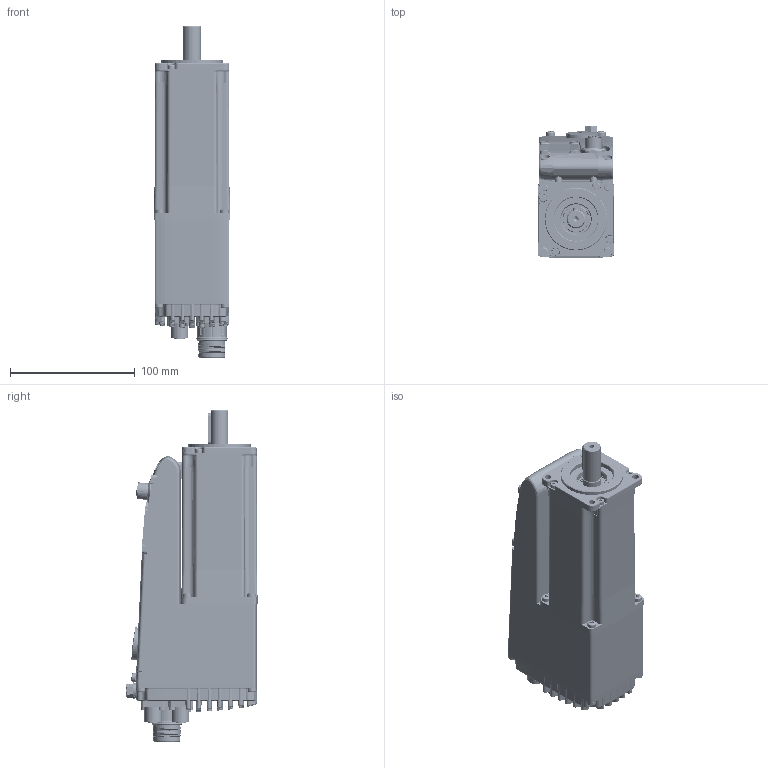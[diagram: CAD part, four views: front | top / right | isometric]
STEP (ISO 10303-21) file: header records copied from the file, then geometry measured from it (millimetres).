
FILE_DESCRIPTION(/* description */ ('Unknown'),/* implementation_level */ '2;1');
FILE_NAME(/* name */ 'DUET60 1,3 A5 0 E 0 (Q0C001)',/* time_stamp */ '2020-11-04T15:22:00+01:00',/* author */ ('Unknown'),/* organization */ ('Unknown'),/* preprocessor_version */ 'ST-DEVELOPER v16.7',/* originating_system */ 'DEX',/* authorisation */ $);
FILE_SCHEMA (('AUTOMOTIVE_DESIGN {1 0 10303 214 3 1 1}'));
Products named in the file (49): DUET60 1,3 A5 0 E 0 (Q0C001); 003251021030; 005123000690; 005123000690_0; 005123000690_1; 005123000690_2; 005123000690_3; 005123000690_4; 005123000690_5; 005123000690_6; 005755000060; 005751000100; 005123000100; 005123000100_0; 005123000100_1; 005123000100_2; 005123000100_3; 005123000100_4; 005123000100_5; 005911000198; 005113000400; 003108002506; 005911000182; 005008000510-oa0; 005008000740-oa1; 005008000744-oa2; 005007000200; MD031601.1.0; 005911000495; 003003199480; 003120003043; 052400000001; LC431503.0.0; J_4302729; J_7601000000; V_VTCTX3X10(8.8); J_7084943121; MD031604.0.0; V_RP6; MD031607.0.0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
Assembly tree (80 placements, depth 4):
  DUET60 1,3 A5 0 E 0 (Q0C001)
    003251021030
    005123000690
    005123000690_0
    005123000690_1
    005123000690_2
    005123000690_3
    005123000690_4
    005123000690_5
    005123000690_6
    005755000060
    005751000100
    005123000100
    005123000100_0
    005123000100_1
    005123000100_2
    005123000100_3
    005123000100_4
    005123000100_5
    005911000198  x4
    005113000400
    003108002506
    005911000182
    005008000510-oa0
    005008000740-oa1
    005008000744-oa2
    005007000200
    MD031601.1.0
    005911000495  x4
    003003199480
    003120003043
    052400000001
      LC431503.0.0
        J_4302729  x2
        J_7601000000
        V_VTCTX3X10(8.8)  x11
        J_7084943121
        MD031604.0.0
        V_RP6
      MD031607.0.0
      MD031608.0.0
      V_VTCTX40X12A  x12
      V_VTCTXK30X8  x5
      MD031609.0.0
      V_V027400610
      169692
      MD081003.2.0
      MD141520.0.0
      CONEC-43-01063
Bounding box: 61.32 x 105.22 x 265.8 mm (x, y, z)
Volume: 401552.1 mm3; surface area: 256269.2 mm2
Topology: 79 solids, 80 shells, 4403 faces, 10991 edges, 6952 vertices
Faces by surface type: plane 1847, cylinder 1153, bspline 564, cone 382, torus 378, sphere 79
Full cylindrical faces by diameter (mm): 0.8 x8, 0.9 x8, 1.1 x8, 1.2 x4, 1.3 x8, 1.4 x8, 1.5 x8, 1.7 x2, 2.2 x5, 2.4 x15, 2.459 x11, 2.5 x21, 3 x25, 3.2 x25, 3.242 x1, 3.3 x1, 3.4 x8, 3.5 x14, 4 x14, 4.2 x3, 4.5 x6, 5 x7, 5.5 x21, 5.6 x5, 6 x22, 6.4 x1, 7 x12, 8 x2, 9.99 x1, 10 x2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
Entity records: 150547 total; most frequent: CARTESIAN_POINT 47064, ORIENTED_EDGE 17272, DIRECTION 16842, EDGE_CURVE 8636, AXIS2_PLACEMENT_3D 6560, VERTEX_POINT 5783, FACE_BOUND 4755, EDGE_LOOP 4702
